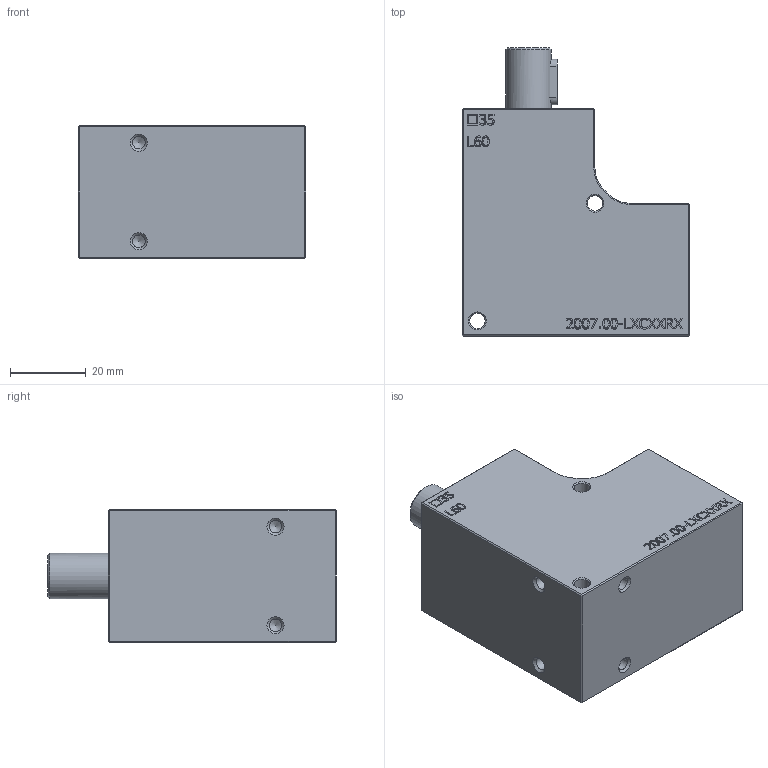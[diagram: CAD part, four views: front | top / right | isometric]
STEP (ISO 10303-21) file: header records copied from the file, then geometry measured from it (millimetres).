
FILE_DESCRIPTION(/* description */ (''),/* implementation_level */ '2;1');
FILE_NAME(/* name */ 'Bauteil3.stp',/* time_stamp */ '2024-12-09T09:30:03+01:00',/* author */ ('Weber_H'),/* organization */ (''),/* preprocessor_version */ 'ST-DEVELOPER v19.2',/* originating_system */ 'Autodesk Inventor 2023',/* authorisation */ '');
FILE_SCHEMA (('CONFIG_CONTROL_DESIGN'));
Length unit declared in the file: millimetre
Products named in the file (1): Bauteil3
Bounding box: 60 x 76 x 35 mm (x, y, z)
Volume: 98794.5 mm3; surface area: 20394.4 mm2
Topology: 1 solids, 4 shells, 536 faces, 1355 edges, 847 vertices
Faces by surface type: plane 249, bspline 149, cylinder 63, cone 41, sphere 20, torus 14
Full cylindrical faces by diameter (mm): 1.25 x1, 1.3 x2, 2 x4, 3.3 x12, 4.1 x2, 4.2 x1, 5 x1, 10 x1, 11.5 x1, 12 x2, 15.4 x1, 16 x2, 16.7 x1, 17 x1, 20.4 x1, 24.8 x1, 27.2 x1, 30 x4, 31.4 x2
Entity records: 17549 total; most frequent: CARTESIAN_POINT 4865, ORIENTED_EDGE 2680, DIRECTION 2101, EDGE_CURVE 1340, VERTEX_POINT 847, LINE 731, VECTOR 731, AXIS2_PLACEMENT_3D 685
